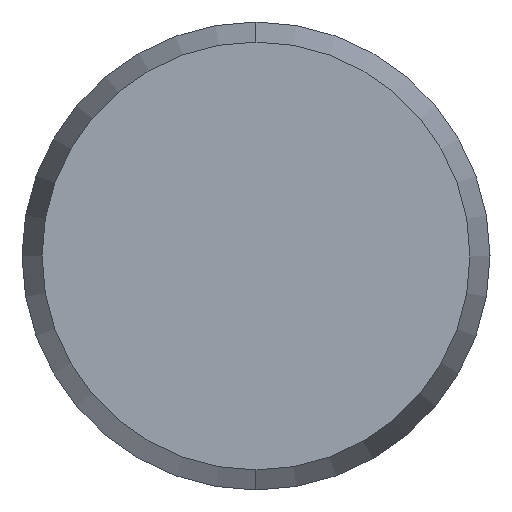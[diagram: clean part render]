
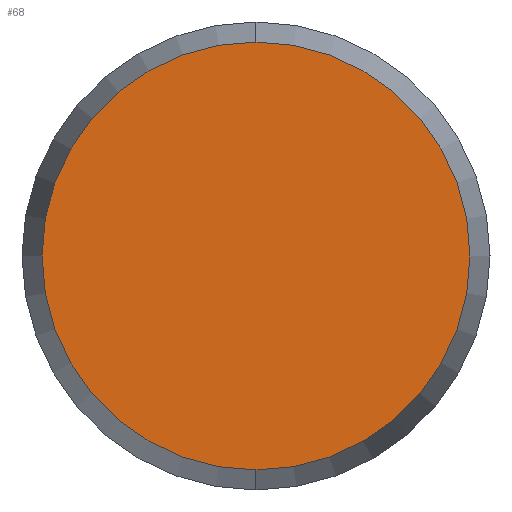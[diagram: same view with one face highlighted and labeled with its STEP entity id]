
A CAD part, left-side view. The second image highlights one B-rep face of the part: STEP entity #68.
In plain terms, the highlighted planar face has unit normal (-1, 0, 0).
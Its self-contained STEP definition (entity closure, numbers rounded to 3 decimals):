
#65 = EDGE_LOOP ( 'NONE', ( #67, #72 ) ) ;
#67 = ORIENTED_EDGE ( 'NONE', *, *, #112, .F. ) ;
#68 = ADVANCED_FACE ( 'NONE', ( #168 ), #148, .F. ) ;
#72 = ORIENTED_EDGE ( 'NONE', *, *, #75, .F. ) ;
#75 = EDGE_CURVE ( 'NONE', #122, #118, #135, .T. ) ;
#112 = EDGE_CURVE ( 'NONE', #118, #122, #201, .T. ) ;
#118 = VERTEX_POINT ( 'NONE', #245 ) ;
#122 = VERTEX_POINT ( 'NONE', #233 ) ;
#124 = DIRECTION ( 'NONE',  ( 1., 0., 0. ) ) ;
#133 = AXIS2_PLACEMENT_3D ( 'NONE', #163, #162, #161 ) ;
#134 = DIRECTION ( 'NONE',  ( 0., 0., -1. ) ) ;
#135 = CIRCLE ( 'NONE', #133, 2.286 ) ;
#145 = AXIS2_PLACEMENT_3D ( 'NONE', #147, #146, #134 ) ;
#146 = DIRECTION ( 'NONE',  ( 1., 0., 0. ) ) ;
#147 = CARTESIAN_POINT ( 'NONE',  ( -12., 0., 0. ) ) ;
#148 = PLANE ( 'NONE',  #145 ) ;
#161 = DIRECTION ( 'NONE',  ( 0., 0., -1. ) ) ;
#162 = DIRECTION ( 'NONE',  ( 1., 0., 0. ) ) ;
#163 = CARTESIAN_POINT ( 'NONE',  ( -12., 0., 0. ) ) ;
#168 = FACE_OUTER_BOUND ( 'NONE', #65, .T. ) ;
#199 = CARTESIAN_POINT ( 'NONE',  ( -12., 0., 0. ) ) ;
#200 = AXIS2_PLACEMENT_3D ( 'NONE', #199, #124, #253 ) ;
#201 = CIRCLE ( 'NONE', #200, 2.286 ) ;
#233 = CARTESIAN_POINT ( 'NONE',  ( -12., 0., -2.286 ) ) ;
#245 = CARTESIAN_POINT ( 'NONE',  ( -12., 0., 2.286 ) ) ;
#253 = DIRECTION ( 'NONE',  ( 0., 0., -1. ) ) ;
